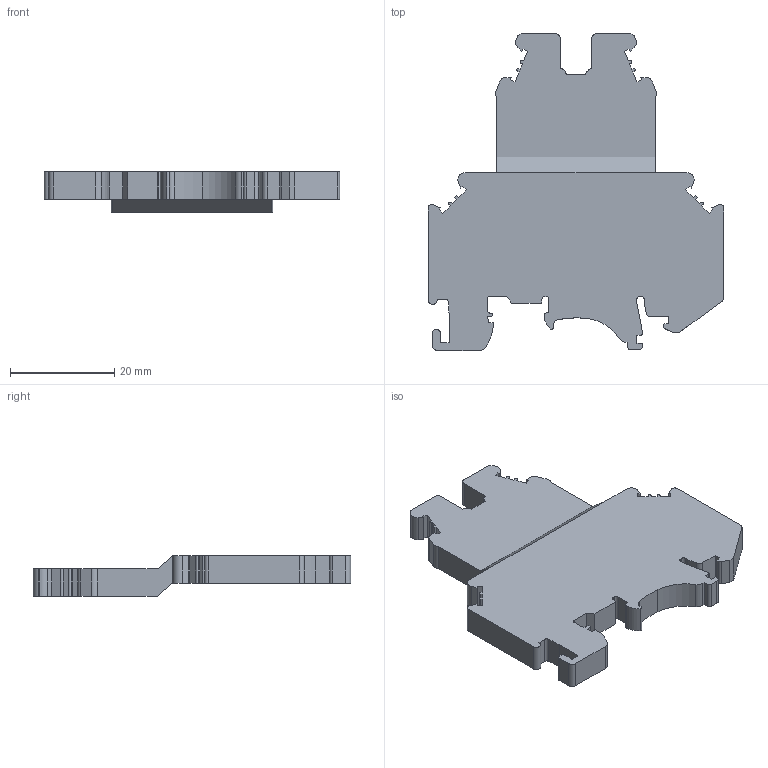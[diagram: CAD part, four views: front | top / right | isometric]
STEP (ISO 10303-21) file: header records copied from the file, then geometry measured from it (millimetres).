
FILE_DESCRIPTION(/* description */ (''),/* implementation_level */ '2;1');
FILE_NAME(/* name */ 'JUT1-2.5-2.stp',/* time_stamp */ '2024-05-13T14:57:38+08:00',/* author */ (''),/* organization */ (''),/* preprocessor_version */ 'ST-DEVELOPER v16.7',/* originating_system */ 'SIEMENS PLM Software NX 12.0',/* authorisation */ '');
FILE_SCHEMA (('AUTOMOTIVE_DESIGN { 1 0 10303 214 3 1 1 1 }'));
Length unit declared in the file: millimetre
Products named in the file (1): Admi537C5896eryo
Bounding box: 56.8 x 61 x 7.7 mm (x, y, z)
Volume: 11235.8 mm3; surface area: 6555.4 mm2
Topology: 1 solids, 1 shells, 182 faces, 524 edges, 348 vertices
Faces by surface type: plane 120, cylinder 62
Entity records: 5992 total; most frequent: CARTESIAN_POINT 1055, ORIENTED_EDGE 1048, DIRECTION 1014, EDGE_CURVE 524, LINE 400, VECTOR 400, VERTEX_POINT 348, AXIS2_PLACEMENT_3D 307
